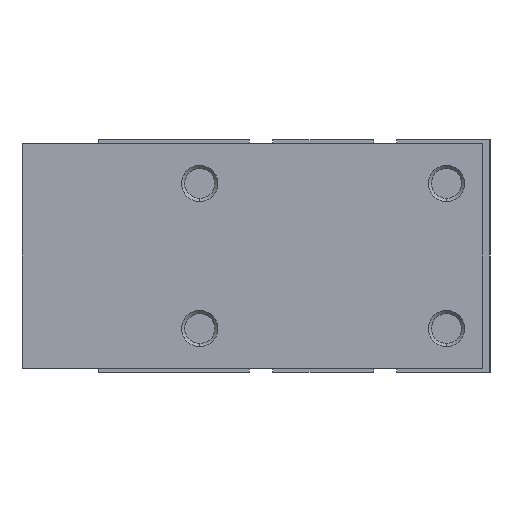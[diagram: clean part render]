
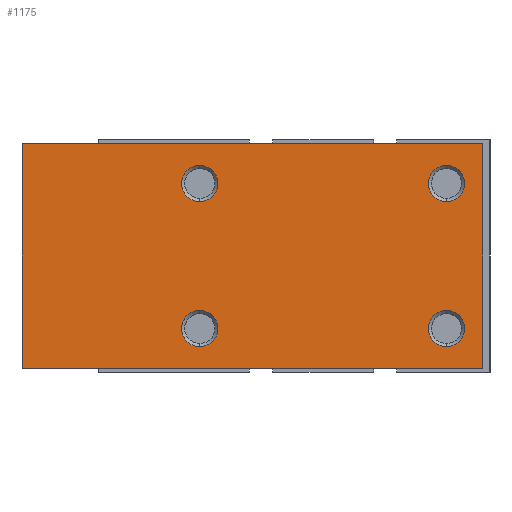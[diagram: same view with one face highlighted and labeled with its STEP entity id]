
A CAD part, left-side view. The second image highlights one B-rep face of the part: STEP entity #1175.
In plain terms, the highlighted planar face has unit normal (-1, 0, 0).
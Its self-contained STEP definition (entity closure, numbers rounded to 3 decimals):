
#4 = CARTESIAN_POINT ( 'NONE',  ( -15.5, 17., 7.5 ) ) ;
#44 = DIRECTION ( 'NONE',  ( -1., 0., 0. ) ) ;
#94 = VERTEX_POINT ( 'NONE', #5781 ) ;
#180 = ORIENTED_EDGE ( 'NONE', *, *, #4239, .F. ) ;
#237 = VERTEX_POINT ( 'NONE', #592 ) ;
#367 = EDGE_CURVE ( 'NONE', #3283, #2954, #5190, .T. ) ;
#371 = CARTESIAN_POINT ( 'NONE',  ( -15.5, 17., 10. ) ) ;
#393 = DIRECTION ( 'NONE',  ( 0., 0., -1. ) ) ;
#478 = AXIS2_PLACEMENT_3D ( 'NONE', #3364, #1868, #4758 ) ;
#479 = VERTEX_POINT ( 'NONE', #5867 ) ;
#547 = CARTESIAN_POINT ( 'NONE',  ( -15.5, -17., 10. ) ) ;
#592 = CARTESIAN_POINT ( 'NONE',  ( -15.5, 41.5, 15.5 ) ) ;
#631 = DIRECTION ( 'NONE',  ( -1., 0., 0. ) ) ;
#696 = VERTEX_POINT ( 'NONE', #3480 ) ;
#698 = EDGE_CURVE ( 'NONE', #94, #1871, #4545, .T. ) ;
#759 = ORIENTED_EDGE ( 'NONE', *, *, #4561, .F. ) ;
#772 = CIRCLE ( 'NONE', #1579, 2.5 ) ;
#795 = FACE_BOUND ( 'NONE', #4247, .T. ) ;
#915 = DIRECTION ( 'NONE',  ( 0., 0., 1. ) ) ;
#1052 = CARTESIAN_POINT ( 'NONE',  ( -15.5, 41.5, 15.5 ) ) ;
#1070 = AXIS2_PLACEMENT_3D ( 'NONE', #4985, #4480, #1551 ) ;
#1094 = EDGE_LOOP ( 'NONE', ( #2474, #1127 ) ) ;
#1120 = CIRCLE ( 'NONE', #4673, 2.5 ) ;
#1127 = ORIENTED_EDGE ( 'NONE', *, *, #698, .F. ) ;
#1136 = CARTESIAN_POINT ( 'NONE',  ( -15.5, -17., -10. ) ) ;
#1142 = ORIENTED_EDGE ( 'NONE', *, *, #4033, .F. ) ;
#1172 = ORIENTED_EDGE ( 'NONE', *, *, #5872, .T. ) ;
#1175 = ADVANCED_FACE ( 'NONE', ( #2045, #5620, #795, #4422, #6132 ), #2353, .F. ) ;
#1191 = CARTESIAN_POINT ( 'NONE',  ( -15.5, -22., -15.5 ) ) ;
#1311 = EDGE_CURVE ( 'NONE', #696, #479, #2985, .T. ) ;
#1329 = CARTESIAN_POINT ( 'NONE',  ( -15.5, -17., 10. ) ) ;
#1379 = DIRECTION ( 'NONE',  ( -1., 0., 0. ) ) ;
#1451 = CARTESIAN_POINT ( 'NONE',  ( -15.5, 17., 12.5 ) ) ;
#1519 = AXIS2_PLACEMENT_3D ( 'NONE', #1914, #44, #5384 ) ;
#1551 = DIRECTION ( 'NONE',  ( 0., 0., 1. ) ) ;
#1562 = ORIENTED_EDGE ( 'NONE', *, *, #2812, .T. ) ;
#1579 = AXIS2_PLACEMENT_3D ( 'NONE', #2833, #3284, #4741 ) ;
#1639 = DIRECTION ( 'NONE',  ( -1., 0., 0. ) ) ;
#1670 = EDGE_CURVE ( 'NONE', #5631, #4319, #5232, .T. ) ;
#1729 = ORIENTED_EDGE ( 'NONE', *, *, #5952, .F. ) ;
#1810 = AXIS2_PLACEMENT_3D ( 'NONE', #1136, #1639, #3034 ) ;
#1868 = DIRECTION ( 'NONE',  ( 1., 0., 0. ) ) ;
#1871 = VERTEX_POINT ( 'NONE', #5130 ) ;
#1880 = CARTESIAN_POINT ( 'NONE',  ( -15.5, 41.5, 15.5 ) ) ;
#1914 = CARTESIAN_POINT ( 'NONE',  ( -15.5, 17., 10. ) ) ;
#2045 = FACE_OUTER_BOUND ( 'NONE', #5938, .T. ) ;
#2055 = CARTESIAN_POINT ( 'NONE',  ( -15.5, 17., -10. ) ) ;
#2184 = AXIS2_PLACEMENT_3D ( 'NONE', #1329, #4672, #915 ) ;
#2241 = CARTESIAN_POINT ( 'NONE',  ( -15.5, 41.5, -15.5 ) ) ;
#2353 = PLANE ( 'NONE',  #478 ) ;
#2408 = CARTESIAN_POINT ( 'NONE',  ( -15.5, -22., 15.5 ) ) ;
#2474 = ORIENTED_EDGE ( 'NONE', *, *, #3080, .F. ) ;
#2519 = DIRECTION ( 'NONE',  ( 0., 0., 1. ) ) ;
#2548 = EDGE_LOOP ( 'NONE', ( #6157, #180 ) ) ;
#2641 = CIRCLE ( 'NONE', #1519, 2.5 ) ;
#2646 = LINE ( 'NONE', #3250, #3496 ) ;
#2812 = EDGE_CURVE ( 'NONE', #3936, #4319, #2646, .T. ) ;
#2833 = CARTESIAN_POINT ( 'NONE',  ( -15.5, 17., -10. ) ) ;
#2881 = ORIENTED_EDGE ( 'NONE', *, *, #5904, .F. ) ;
#2954 = VERTEX_POINT ( 'NONE', #4 ) ;
#2985 = CIRCLE ( 'NONE', #2184, 2.5 ) ;
#3034 = DIRECTION ( 'NONE',  ( 0., 0., 1. ) ) ;
#3052 = ORIENTED_EDGE ( 'NONE', *, *, #1670, .F. ) ;
#3080 = EDGE_CURVE ( 'NONE', #1871, #94, #5738, .T. ) ;
#3223 = LINE ( 'NONE', #1880, #3248 ) ;
#3248 = VECTOR ( 'NONE', #393, 1000. ) ;
#3250 = CARTESIAN_POINT ( 'NONE',  ( -15.5, 41.5, -15.5 ) ) ;
#3283 = VERTEX_POINT ( 'NONE', #1451 ) ;
#3284 = DIRECTION ( 'NONE',  ( -1., 0., 0. ) ) ;
#3315 = EDGE_LOOP ( 'NONE', ( #759, #1142 ) ) ;
#3364 = CARTESIAN_POINT ( 'NONE',  ( -15.5, 41.5, 15.5 ) ) ;
#3407 = LINE ( 'NONE', #1052, #3658 ) ;
#3451 = AXIS2_PLACEMENT_3D ( 'NONE', #547, #4357, #2519 ) ;
#3480 = CARTESIAN_POINT ( 'NONE',  ( -15.5, -17., 12.5 ) ) ;
#3496 = VECTOR ( 'NONE', #4586, 1000. ) ;
#3514 = VERTEX_POINT ( 'NONE', #6120 ) ;
#3569 = AXIS2_PLACEMENT_3D ( 'NONE', #371, #1379, #6188 ) ;
#3658 = VECTOR ( 'NONE', #5374, 1000. ) ;
#3842 = VECTOR ( 'NONE', #5838, 1000. ) ;
#3936 = VERTEX_POINT ( 'NONE', #2241 ) ;
#4033 = EDGE_CURVE ( 'NONE', #5181, #3514, #1120, .T. ) ;
#4239 = EDGE_CURVE ( 'NONE', #2954, #3283, #2641, .T. ) ;
#4247 = EDGE_LOOP ( 'NONE', ( #6206, #2881 ) ) ;
#4319 = VERTEX_POINT ( 'NONE', #1191 ) ;
#4357 = DIRECTION ( 'NONE',  ( -1., 0., 0. ) ) ;
#4422 = FACE_BOUND ( 'NONE', #1094, .T. ) ;
#4468 = CIRCLE ( 'NONE', #3451, 2.5 ) ;
#4480 = DIRECTION ( 'NONE',  ( -1., 0., 0. ) ) ;
#4545 = CIRCLE ( 'NONE', #1810, 2.5 ) ;
#4561 = EDGE_CURVE ( 'NONE', #3514, #5181, #772, .T. ) ;
#4586 = DIRECTION ( 'NONE',  ( 0., -1., 0. ) ) ;
#4672 = DIRECTION ( 'NONE',  ( -1., 0., 0. ) ) ;
#4673 = AXIS2_PLACEMENT_3D ( 'NONE', #2055, #631, #5930 ) ;
#4741 = DIRECTION ( 'NONE',  ( 0., 0., 1. ) ) ;
#4758 = DIRECTION ( 'NONE',  ( 0., 1., 0. ) ) ;
#4985 = CARTESIAN_POINT ( 'NONE',  ( -15.5, -17., -10. ) ) ;
#5130 = CARTESIAN_POINT ( 'NONE',  ( -15.5, -17., -7.5 ) ) ;
#5181 = VERTEX_POINT ( 'NONE', #6029 ) ;
#5190 = CIRCLE ( 'NONE', #3569, 2.5 ) ;
#5232 = LINE ( 'NONE', #2408, #3842 ) ;
#5374 = DIRECTION ( 'NONE',  ( 0., -1., 0. ) ) ;
#5384 = DIRECTION ( 'NONE',  ( 0., 0., 1. ) ) ;
#5539 = CARTESIAN_POINT ( 'NONE',  ( -15.5, -22., 15.5 ) ) ;
#5620 = FACE_BOUND ( 'NONE', #3315, .T. ) ;
#5631 = VERTEX_POINT ( 'NONE', #5539 ) ;
#5738 = CIRCLE ( 'NONE', #1070, 2.5 ) ;
#5781 = CARTESIAN_POINT ( 'NONE',  ( -15.5, -17., -12.5 ) ) ;
#5838 = DIRECTION ( 'NONE',  ( 0., 0., -1. ) ) ;
#5867 = CARTESIAN_POINT ( 'NONE',  ( -15.5, -17., 7.5 ) ) ;
#5872 = EDGE_CURVE ( 'NONE', #237, #3936, #3223, .T. ) ;
#5904 = EDGE_CURVE ( 'NONE', #479, #696, #4468, .T. ) ;
#5930 = DIRECTION ( 'NONE',  ( 0., 0., 1. ) ) ;
#5938 = EDGE_LOOP ( 'NONE', ( #1562, #3052, #1729, #1172 ) ) ;
#5952 = EDGE_CURVE ( 'NONE', #237, #5631, #3407, .T. ) ;
#6029 = CARTESIAN_POINT ( 'NONE',  ( -15.5, 17., -12.5 ) ) ;
#6120 = CARTESIAN_POINT ( 'NONE',  ( -15.5, 17., -7.5 ) ) ;
#6132 = FACE_BOUND ( 'NONE', #2548, .T. ) ;
#6157 = ORIENTED_EDGE ( 'NONE', *, *, #367, .F. ) ;
#6188 = DIRECTION ( 'NONE',  ( 0., 0., 1. ) ) ;
#6206 = ORIENTED_EDGE ( 'NONE', *, *, #1311, .F. ) ;
